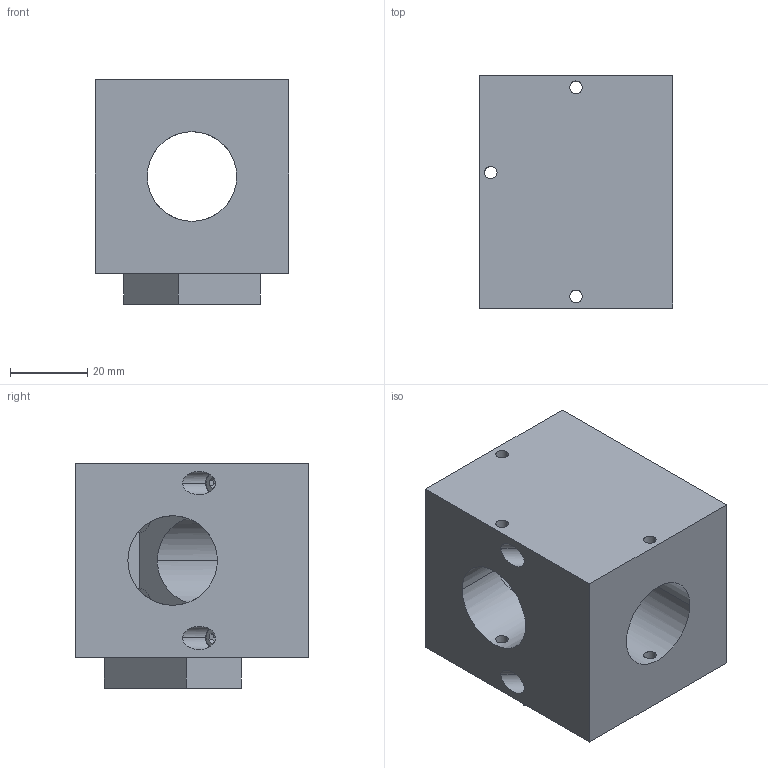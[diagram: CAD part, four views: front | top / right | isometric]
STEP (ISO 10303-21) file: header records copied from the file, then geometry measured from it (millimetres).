
FILE_DESCRIPTION (( 'STEP AP203' ), '1' );
FILE_NAME ('10BC68-1.STEP', '2011-04-04T13:46:18', ( 'Romas' ), ( '' ), 'SwSTEP 2.0', 'SolidWorks 2003240', '' );
FILE_SCHEMA (( 'CONFIG_CONTROL_DESIGN' ));
Length unit declared in the file: millimetre
Products named in the file (1): 10BC68-1
Bounding box: 50 x 60 x 58 mm (x, y, z)
Volume: 117055.4 mm3; surface area: 26409.4 mm2
Topology: 1 solids, 13 shells, 232 faces, 588 edges, 373 vertices
Faces by surface type: cylinder 88, plane 82, cone 38, bspline 24
Entity records: 7655 total; most frequent: CARTESIAN_POINT 2142, DIRECTION 1132, ORIENTED_EDGE 1128, EDGE_CURVE 564, AXIS2_PLACEMENT_3D 447, VERTEX_POINT 373, EDGE_LOOP 275, CIRCLE 238
